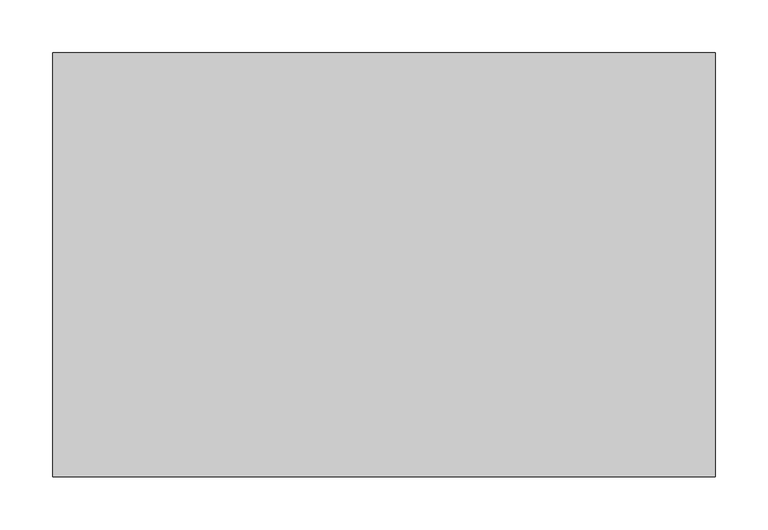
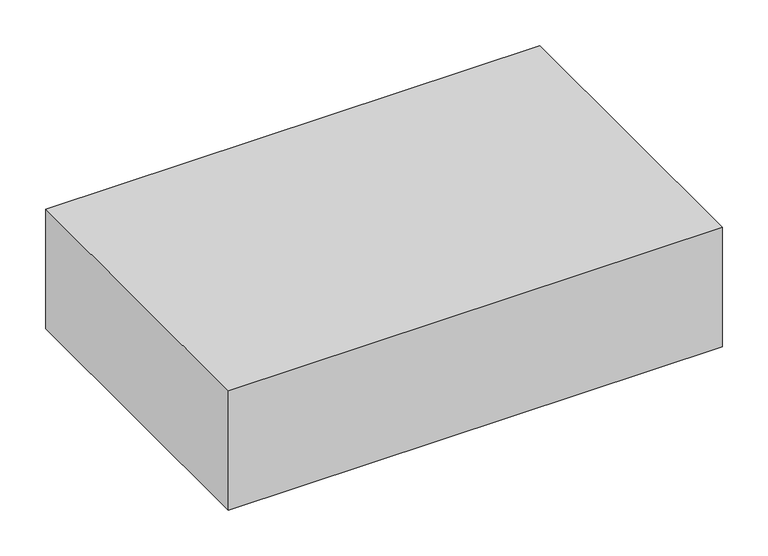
"""IFC4 building model written with IfcOpenShell, lengths in millimetres: proxy geometry, Umgebung_Blockstufe : Blockstufe."""

from ifc_helpers import new_model, si_unit, origin, origin_with_axes, place, context, project, spatial, polyline, outline, extrude, source, transform, mapped, element, save


def entourage_d020e230(model_context):
    return source(origin(), model_context, "Body", "SweptSolid", [
        extrude(outline(polyline([(0.0, 0.0), (625.0, 0.0), (625.0, -400.0), (0.0, -400.0), (0.0, 0.0)])), origin_with_axes(), (0.0, 0.0, 1.0), 160.0),
    ])


if __name__ == "__main__":
    model = new_model("IFC4")
    model_context = context("Model", 3, world=origin())
    ifc_project = project(units=[si_unit("LENGTHUNIT", "METRE", prefix="MILLI")], contexts=[model_context])
    site = spatial("IfcSite", under=ifc_project)
    building = spatial("IfcBuilding", under=site)
    placement = place(None, origin())
    entourage_shape = entourage_d020e230(model_context)
    element("IfcBuildingElementProxy", 1, Name="Umgebung_Blockstufe : Blockstufe", ObjectType="Umgebung_Blockstufe : Blockstufe", at=placement, inside=building, context=model_context, shape_type="MappedRepresentation", body=[
        mapped(entourage_shape, transform((0.0, 0.0, 0.0), x_axis=(1.0, 0.0, 0.0), y_axis=(0.0, 1.0, 0.0), z_axis=(0.0, 0.0, 1.0))),
    ])
    save(model, "model.ifc")
